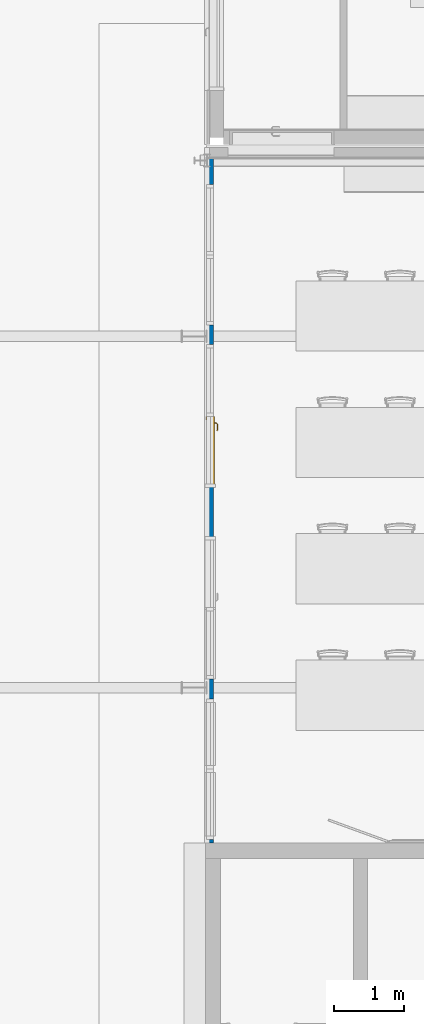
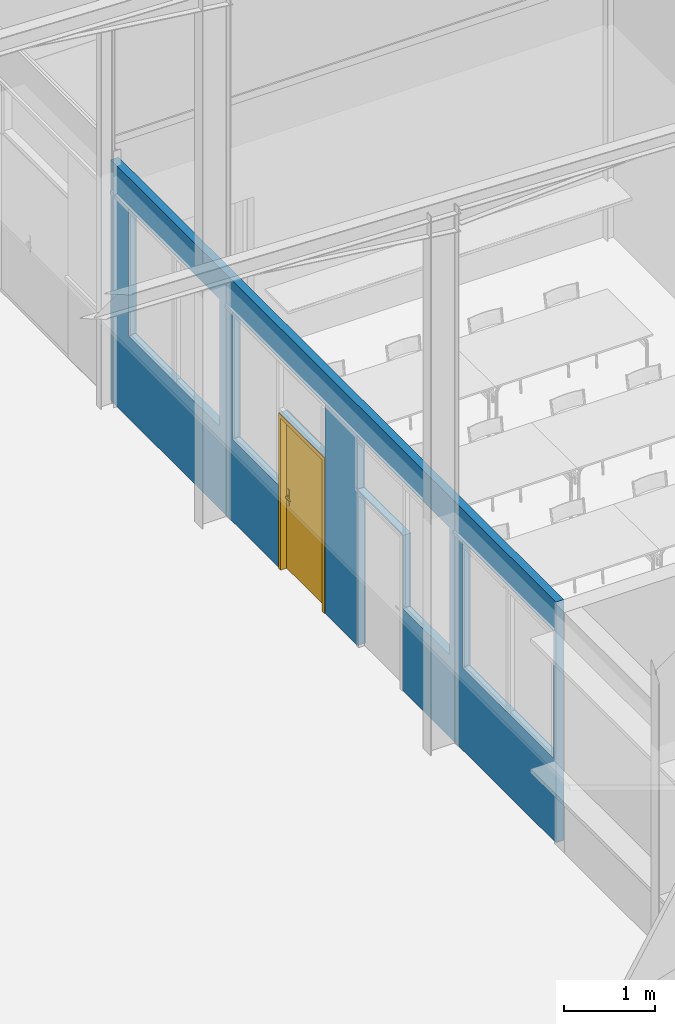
# One storey, part 53 of 137: 1 door, 1 wall, 8 openings.
"""IFC2X3 building model written with IfcOpenShell, lengths in centimetres."""

import ifcopenshell
import ifcopenshell.guid

model = None  # the IFC model being written
_history = None  # IfcOwnerHistory: only IFC2X3 demands one
_inside = {}  # id of a spatial element -> (the spatial element, [elements in it])
_under = {}  # id of a project, library or spatial element -> (it, [spatial elements below it])
_declared = {}  # id of a project -> (the project, [libraries it declares])
_typed = {}  # id of a type object -> (the type object, [elements of that type])
_made_of = {}  # id of a material, layer set ... -> (it, [elements and type objects made of it])


def new_model(schema):
    """Start an empty IFC model of exactly this schema.

    Asked for "IFC4X3", IfcOpenShell would pick the latest addendum, in which some entities
    have other attributes; the version numbers below select the first issue.
    IFC2X3 requires an IfcOwnerHistory on every rooted entity: one is made here for all.
    """
    global model, _history
    if schema == "IFC4X3":
        model = ifcopenshell.file(schema_version=(4, 3, 0, 0))
    else:
        model = ifcopenshell.file(schema=schema)
    _inside.clear()
    _under.clear()
    _declared.clear()
    _typed.clear()
    _made_of.clear()
    _history = None
    if model.schema == "IFC2X3":
        org = make("IfcOrganization", Name="unknown")
        user = make(
            "IfcPersonAndOrganization",
            ThePerson=make("IfcPerson", FamilyName="unknown"),
            TheOrganization=org,
        )
        app = make(
            "IfcApplication",
            ApplicationDeveloper=org,
            Version="unknown",
            ApplicationFullName="unknown",
            ApplicationIdentifier="unknown",
        )
        _history = make(
            "IfcOwnerHistory",
            OwningUser=user,
            OwningApplication=app,
            ChangeAction="ADDED",
            CreationDate=0,
        )
    return model


def make(cls, **values):
    """One entity of the class cls with the attributes given. An attribute that is None is left unset."""
    return model.create_entity(
        cls, **{name: value for name, value in values.items() if value is not None}
    )


def entity(cls, *values):
    """Any entity or typed value of the class cls, its attributes in the order of the schema. None: left unset."""
    e = model.create_entity(cls)
    for i, value in enumerate(values):
        if value is not None:
            e[i] = value
    return e


def rooted(cls, **values):
    """An entity with a GlobalId (a new one), such as an element, a storey or a relation."""
    return make(cls, GlobalId=ifcopenshell.guid.new(), OwnerHistory=_history, **values)


def si_unit(unit_type, name, prefix=None):
    """IfcSIUnit, for example si_unit("LENGTHUNIT", "METRE", prefix="MILLI")."""
    return make("IfcSIUnit", UnitType=unit_type, Prefix=prefix, Name=name)


def converted_unit(unit_type, name, factor, base, dimensions=None, offset=None):
    """IfcConversionBasedUnit, such as the inch: factor (a typed value) times the base unit."""
    return make(
        "IfcConversionBasedUnit"
        if offset is None
        else "IfcConversionBasedUnitWithOffset",
        ConversionOffset=offset,
        Dimensions=None
        if dimensions is None
        else entity("IfcDimensionalExponents", *dimensions),
        UnitType=unit_type,
        Name=name,
        ConversionFactor=make(
            "IfcMeasureWithUnit", ValueComponent=factor, UnitComponent=base
        ),
    )


def derived_unit(unit_type, elements):
    """IfcDerivedUnit: a product of units, each with its exponent."""
    return make(
        "IfcDerivedUnit",
        Elements=[
            make("IfcDerivedUnitElement", Unit=unit, Exponent=power)
            for unit, power in elements
        ],
        UnitType=unit_type,
    )


def assignment(units):
    """IfcUnitAssignment: the units of a project."""
    return None if units is None else make("IfcUnitAssignment", Units=units)


def point(xyz):
    """IfcCartesianPoint."""
    return None if xyz is None else make("IfcCartesianPoint", Coordinates=xyz)


def direction(xyz):
    """IfcDirection."""
    return None if xyz is None else make("IfcDirection", DirectionRatios=xyz)


def frame(location, z_axis=None, x_axis=None):
    """IfcAxis2Placement3D, a coordinate frame: its origin and axes. An axis left out is left unset."""
    return make(
        "IfcAxis2Placement3D",
        Location=point(location),
        Axis=direction(z_axis),
        RefDirection=direction(x_axis),
    )


def frame_2d(location, x_axis=None):
    """IfcAxis2Placement2D, a coordinate frame in the plane: its origin and x axis."""
    return make(
        "IfcAxis2Placement2D", Location=point(location), RefDirection=direction(x_axis)
    )


def origin():
    """The frame at (0, 0, 0) with its axes left unset."""
    return frame((0.0, 0.0, 0.0))


def origin_2d_with_axis():
    """The frame at (0, 0) in the plane with the x axis (1, 0) written out."""
    return frame_2d((0.0, 0.0), x_axis=(1.0, 0.0))


def place(relative_to, where):
    """IfcLocalPlacement: puts the frame where relative to a parent placement (None: the world)."""
    return make(
        "IfcLocalPlacement", PlacementRelTo=relative_to, RelativePlacement=where
    )


def context(
    kind, dimensions, precision=None, world=None, true_north=None, identifier=None
):
    """IfcGeometricRepresentationContext, for example the 3D "Model" context."""
    return make(
        "IfcGeometricRepresentationContext",
        ContextIdentifier=identifier,
        ContextType=kind,
        CoordinateSpaceDimension=dimensions,
        Precision=precision,
        WorldCoordinateSystem=world,
        TrueNorth=true_north,
    )


def subcontext(parent, identifier, kind, view, scale=None):
    """IfcGeometricRepresentationSubContext, for example "Body" below "Model"."""
    return make(
        "IfcGeometricRepresentationSubContext",
        ContextIdentifier=identifier,
        ContextType=kind,
        ParentContext=parent,
        TargetScale=scale,
        TargetView=view,
    )


def project(units=None, contexts=None):
    """IfcProject with its units and contexts."""
    return rooted(
        "IfcProject",
        Name="project",
        RepresentationContexts=contexts,
        UnitsInContext=assignment(units),
    )


def spatial(cls, under=None, at=None, **own):
    """A site, building, storey or space (cls), placed at a placement, below another one or the project."""
    s = rooted(cls, ObjectPlacement=at, **own)
    if under is not None:
        _under.setdefault(under.id(), (under, []))[1].append(s)
    return s


def polyline(points):
    """IfcPolyline through the points."""
    return make("IfcPolyline", Points=[point(p) for p in points])


def profile(cls, at=None, kind="AREA", **sizes):
    """A parametric profile (cls). Its sizes go by their IFC names, for example OverallWidth=200.0."""
    return make(cls, ProfileType=kind, Position=at, **sizes)


def rectangle(**sizes):
    """IfcRectangleProfileDef."""
    return profile("IfcRectangleProfileDef", **sizes)


def outline(outer, holes=None, kind="AREA"):
    """IfcArbitraryClosedProfileDef: a profile drawn as a closed curve; with holes, ...WithVoids."""
    if holes is None:
        return make("IfcArbitraryClosedProfileDef", ProfileType=kind, OuterCurve=outer)
    return make(
        "IfcArbitraryProfileDefWithVoids",
        ProfileType=kind,
        OuterCurve=outer,
        InnerCurves=holes,
    )


def extrude(swept, where, along, depth):
    """IfcExtrudedAreaSolid: the profile swept, set in the frame where, extruded along a direction by depth."""
    return make(
        "IfcExtrudedAreaSolid",
        SweptArea=swept,
        Position=where,
        ExtrudedDirection=direction(along),
        Depth=depth,
    )


def clip(a, b, op="DIFFERENCE"):
    """IfcBooleanClippingResult: the solid a cut by the half space b."""
    return make(
        "IfcBooleanClippingResult", Operator=op, FirstOperand=a, SecondOperand=b
    )


def bounded_halfspace(plane, agree, where, boundary):
    """IfcPolygonalBoundedHalfSpace: a half space limited to a polygon's prism."""
    return make(
        "IfcPolygonalBoundedHalfSpace",
        BaseSurface=make("IfcPlane", Position=plane),
        AgreementFlag=agree,
        Position=where,
        PolygonalBoundary=boundary,
    )


def faces_of(points, faces, orient=None, outer=None):
    """IfcFace entities. A face is a list of loops; a loop is a list of indices into points, from 0.

    orient and outer hold one flag for each loop. By default every Orientation is true, the
    first loop of a face is its IfcFaceOuterBound and the others are IfcFaceBound.
    """
    made = []
    for i, loops in enumerate(faces):
        bounds = []
        for j, loop in enumerate(loops):
            is_outer = j == 0 if outer is None else outer[i][j]
            bounds.append(
                make(
                    "IfcFaceOuterBound" if is_outer else "IfcFaceBound",
                    Bound=make("IfcPolyLoop", Polygon=[points[k] for k in loop]),
                    Orientation=True if orient is None else orient[i][j],
                )
            )
        made.append(make("IfcFace", Bounds=bounds))
    return made


def faceted_brep(points, faces, orient=None, outer=None, voids=None):
    """IfcFacetedBrep: a solid bounded by flat faces; with voids (closed shells), ...WithVoids."""
    shared = [point(p) for p in points]
    hull = make("IfcClosedShell", CfsFaces=faces_of(shared, faces, orient, outer))
    if voids is None:
        return make("IfcFacetedBrep", Outer=hull)
    return make(
        "IfcFacetedBrepWithVoids",
        Outer=hull,
        Voids=[
            make(cls, CfsFaces=faces_of(shared, fs, o, b)) for cls, fs, o, b in voids
        ],
    )


def shape(context_of_items, identifier, shape_type, items):
    """IfcShapeRepresentation: the items that make up one representation, for example the "Body"."""
    return make(
        "IfcShapeRepresentation",
        ContextOfItems=context_of_items,
        RepresentationIdentifier=identifier,
        RepresentationType=shape_type,
        Items=items,
    )


def source(mapping_origin, context_of_items, identifier, shape_type, items):
    """IfcRepresentationMap: a shape defined once, which mapped items show again and again."""
    return make(
        "IfcRepresentationMap",
        MappingOrigin=mapping_origin,
        MappedRepresentation=shape(context_of_items, identifier, shape_type, items),
    )


def transform(
    local_origin,
    x_axis=None,
    y_axis=None,
    z_axis=None,
    scale=None,
    scale2=None,
    scale3=None,
    uniform=True,
):
    """IfcCartesianTransformationOperator3D, or its non-uniform kind. x_axis, y_axis, z_axis: its Axis1, 2, 3."""
    if uniform:
        return make(
            "IfcCartesianTransformationOperator3D",
            Axis1=direction(x_axis),
            Axis2=direction(y_axis),
            LocalOrigin=point(local_origin),
            Scale=scale,
            Axis3=direction(z_axis),
        )
    return make(
        "IfcCartesianTransformationOperator3DnonUniform",
        Axis1=direction(x_axis),
        Axis2=direction(y_axis),
        LocalOrigin=point(local_origin),
        Scale=scale,
        Axis3=direction(z_axis),
        Scale2=scale2,
        Scale3=scale3,
    )


def mapped(mapping_source, mapping_target):
    """IfcMappedItem: shows the shape of a source again, moved by a transform."""
    return make(
        "IfcMappedItem", MappingSource=mapping_source, MappingTarget=mapping_target
    )


def material(Name=None, Category=None):
    """IfcMaterial."""
    return make("IfcMaterial", Name=Name, Category=Category)


def material_list(materials):
    """IfcMaterialList."""
    return make("IfcMaterialList", Materials=materials)


def layer(
    of_material, thickness, ventilated=None, Name=None, Category=None, Priority=None
):
    """IfcMaterialLayer: one layer of a wall or slab, of a material (None: an air gap)."""
    return make(
        "IfcMaterialLayer",
        Material=of_material,
        LayerThickness=thickness,
        IsVentilated=ventilated,
        Name=Name,
        Category=Category,
        Priority=Priority,
    )


def layer_set(layers, Name=None):
    """IfcMaterialLayerSet."""
    return make("IfcMaterialLayerSet", MaterialLayers=layers, LayerSetName=Name)


def layer_usage(for_layer_set, set_direction, sense, offset, extent=None):
    """IfcMaterialLayerSetUsage: how a layer set lies in its element."""
    return make(
        "IfcMaterialLayerSetUsage",
        ForLayerSet=for_layer_set,
        LayerSetDirection=set_direction,
        DirectionSense=sense,
        OffsetFromReferenceLine=offset,
        ReferenceExtent=extent,
    )


def made_of(thing, what):
    """Note that an element or type object is made of a material, layer set ...; save() writes the relation."""
    if what is not None:
        _made_of.setdefault(what.id(), (what, []))[1].append(thing)
    return thing


def type_object(cls, material=None, **own):
    """A type object (cls), such as IfcWallType, which elements share."""
    return made_of(rooted(cls, **own), material)


def type_shapes(of_type, sources):
    """Give a type object the sources (RepresentationMaps) that its elements show as mapped items."""
    of_type.RepresentationMaps = sources


def element(
    cls,
    number,
    at=None,
    inside=None,
    cuts=None,
    type_object=None,
    material=None,
    context=None,
    identifier="Body",
    shape_type=None,
    held_by="IfcProductDefinitionShape",
    body=None,
    shapes=None,
    **own,
):
    """One element of the class cls, such as IfcWall. Its Tag is "e" and its number.

    at: its placement. inside: the storey or other place that contains it. cuts: it is an
    opening in that element (IfcRelVoidsElement). A single representation is given by context,
    identifier, shape_type and body (its items); several are given by shapes. held_by: the class
    of the entity that holds the representations. save() writes the other relations.
    """
    e = rooted(cls, Tag="e%d" % number, ObjectPlacement=at, **own)
    if body is not None:
        shapes = [shape(context, identifier, shape_type, body)]
    if shapes is not None:
        e.Representation = make(held_by, Representations=shapes)
    if inside is not None:
        _inside.setdefault(inside.id(), (inside, []))[1].append(e)
    if cuts is not None:
        rooted(
            "IfcRelVoidsElement", RelatingBuildingElement=cuts, RelatedOpeningElement=e
        )
    if type_object is not None:
        _typed.setdefault(type_object.id(), (type_object, []))[1].append(e)
    return made_of(e, material)


def fill(opening, filler):
    """IfcRelFillsElement: the door or window that sits in an opening."""
    return rooted(
        "IfcRelFillsElement",
        RelatingOpeningElement=opening,
        RelatedBuildingElement=filler,
    )


def aggregate(whole, parts):
    """IfcRelAggregates: a whole, such as a stair, and the parts it consists of."""
    return rooted("IfcRelAggregates", RelatingObject=whole, RelatedObjects=parts)


def save(model, path):
    """Write the relations noted so far, then the file.

    IfcRelAggregates (storeys below a building ...), IfcRelContainedInSpatialStructure (elements
    in a storey), IfcRelDefinesByType, IfcRelAssociatesMaterial and IfcRelDeclares: one each for
    every whole, place, type object, material and project.
    """
    for whole, parts in _under.values():
        aggregate(whole, parts)
    for where, things in _inside.values():
        rooted(
            "IfcRelContainedInSpatialStructure",
            RelatedElements=things,
            RelatingStructure=where,
        )
    for kind, things in _typed.values():
        rooted("IfcRelDefinesByType", RelatedObjects=things, RelatingType=kind)
    for what, things in _made_of.values():
        rooted("IfcRelAssociatesMaterial", RelatedObjects=things, RelatingMaterial=what)
    for by, libraries in _declared.values():
        rooted("IfcRelDeclares", RelatingContext=by, RelatedDefinitions=libraries)
    model.write(path)


model = new_model("IFC2X3")

# Units and contexts
model_context = context("Model", 3, precision=0.001, world=origin(), true_north=direction((6.12303176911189e-17, 1.0)))
body_context = subcontext(model_context, "Body", "Model", "MODEL_VIEW")
ifc_project = project(units=[si_unit("LENGTHUNIT", "METRE", prefix="CENTI"), si_unit("AREAUNIT", "SQUARE_METRE"), si_unit("VOLUMEUNIT", "CUBIC_METRE"), converted_unit("PLANEANGLEUNIT", "DEGREE", entity("IfcRatioMeasure", 0.0174532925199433), si_unit("PLANEANGLEUNIT", "RADIAN"), dimensions=[0, 0, 0, 0, 0, 0, 0]), si_unit("MASSUNIT", "GRAM", prefix="KILO"), si_unit("TIMEUNIT", "SECOND"), si_unit("FREQUENCYUNIT", "HERTZ"), si_unit("THERMODYNAMICTEMPERATUREUNIT", "DEGREE_CELSIUS"), derived_unit("THERMALTRANSMITTANCEUNIT", [(si_unit("MASSUNIT", "GRAM", prefix="KILO"), 1), (si_unit("THERMODYNAMICTEMPERATUREUNIT", "KELVIN"), -1), (si_unit("TIMEUNIT", "SECOND"), -3)]), derived_unit("VOLUMETRICFLOWRATEUNIT", [(si_unit("LENGTHUNIT", "METRE"), 3), (si_unit("TIMEUNIT", "SECOND"), -1)]), si_unit("ELECTRICCURRENTUNIT", "AMPERE"), si_unit("ELECTRICVOLTAGEUNIT", "VOLT"), si_unit("POWERUNIT", "WATT"), si_unit("FORCEUNIT", "NEWTON", prefix="KILO"), si_unit("ILLUMINANCEUNIT", "LUX"), si_unit("LUMINOUSFLUXUNIT", "LUMEN"), si_unit("LUMINOUSINTENSITYUNIT", "CANDELA"), derived_unit("USERDEFINED", [(si_unit("MASSUNIT", "GRAM", prefix="KILO"), -1), (si_unit("LENGTHUNIT", "METRE"), -2), (si_unit("TIMEUNIT", "SECOND"), 3), (si_unit("LUMINOUSFLUXUNIT", "LUMEN"), 1)]), derived_unit("LINEARVELOCITYUNIT", [(si_unit("LENGTHUNIT", "METRE"), 1), (si_unit("TIMEUNIT", "SECOND"), -1)]), si_unit("PRESSUREUNIT", "PASCAL"), derived_unit("USERDEFINED", [(si_unit("LENGTHUNIT", "METRE"), -2), (si_unit("MASSUNIT", "GRAM", prefix="KILO"), 1), (si_unit("TIMEUNIT", "SECOND"), -2)])], contexts=[model_context])

# Site, building, storey
site_placement = place(None, frame((8.62739174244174, -249.285249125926, 0.0)))
site = spatial("IfcSite", under=ifc_project, at=site_placement, Name="Default", CompositionType="ELEMENT")
building_placement = place(site_placement, origin())
building = spatial("IfcBuilding", under=site, at=building_placement, CompositionType="ELEMENT")
storey_placement = place(building_placement, origin())
storey = spatial("IfcBuildingStorey", under=building, at=storey_placement, Name="RDC", CompositionType="ELEMENT", Elevation=-8.82465566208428e-11)

# Wall, openings, door
ifc_material_1 = material(Name="Plâtre EXISTANT")
ifc_layer = layer(ifc_material_1, 10.0)
ifc_layer_set = layer_set([ifc_layer], Name="Mur de base:PLA EXISTANT 10")
ifc_layer_usage = layer_usage(ifc_layer_set, "AXIS2", "NEGATIVE", 5.0)
wall_type = type_object("IfcWallType", Name="Mur de base:PLA EXISTANT 10", PredefinedType="STANDARD", material=ifc_layer_set)
wall_placement = place(storey_placement, frame((3034.90482780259, 2616.98020806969, 0.0), z_axis=(0.0, 0.0, 1.0), x_axis=(0.0, -1.0, 0.0)))
wall = element("IfcWallStandardCase", 1, at=wall_placement, inside=storey, type_object=wall_type, material=ifc_layer_usage, Name="Mur de base:PLA EXISTANT 10", ObjectType="Mur de base:PLA EXISTANT 10", context=body_context, shape_type="Clipping", body=[
    clip(extrude(rectangle(XDim=975.999999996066, YDim=10.0000000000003, at=frame_2d((487.999999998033, 3.10862446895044e-15), x_axis=(-1.0, 0.0))), origin(), (0.0, 0.0, 1.0), 322.000000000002), bounded_halfspace(frame((0.0, -5.0, 322.0), z_axis=(0.0, 0.0, -1.0), x_axis=(0.0, -1.0, 0.0)), True, frame((0.0, -5.0, 322.0)), polyline([(0.0, 0.0), (976.0, 0.0), (976.0, 10.0), (0.0, 10.0), (0.0, 0.0)]))),
])
opening_1_placement = place(wall_placement, origin())
element("IfcOpeningElement", 2, at=opening_1_placement, cuts=wall, Name="Mur de base:PLA EXISTANT 10", ObjectType="Opening", context=body_context, shape_type="SweptSolid", body=[
    extrude(rectangle(XDim=170.0, YDim=100.0, at=frame_2d((0.0, -1.10134124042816e-13), x_axis=(1.0, 0.0))), frame((821.0, -20.2399999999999, 195.0), z_axis=(0.0, 1.0, 0.0), x_axis=(0.0, 0.0, 1.0)), (0.0, 0.0, 1.0), 40.4799999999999),
])
opening_2_placement = place(wall_placement, origin())
element("IfcOpeningElement", 3, at=opening_2_placement, cuts=wall, Name="Mur de base:PLA EXISTANT 10", ObjectType="Opening", context=body_context, shape_type="SweptSolid", body=[
    extrude(rectangle(XDim=170.0, YDim=100.0, at=frame_2d((0.0, -1.10134124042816e-13), x_axis=(1.0, 0.0))), frame((921.0, -20.2399999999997, 195.0), z_axis=(0.0, 1.0, 0.0), x_axis=(0.0, 0.0, 1.0)), (0.0, 0.0, 1.0), 40.4799999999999),
])
opening_3_placement = place(wall_placement, origin())
element("IfcOpeningElement", 4, at=opening_3_placement, cuts=wall, Name="Mur de base:PLA EXISTANT 10", ObjectType="Opening", context=body_context, shape_type="SweptSolid", body=[
    extrude(outline(polyline([(-89.3333333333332, -101.666666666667), (80.6666666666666, -101.666666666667), (80.6666666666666, 101.333333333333), (8.66666666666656, 101.333333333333), (8.66666666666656, 0.333333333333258), (-89.3333333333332, 0.333333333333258), (-89.3333333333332, -101.666666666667)])), frame((368.666666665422, -20.2399999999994, 199.333333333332), z_axis=(0.0, 1.0, 0.0), x_axis=(0.0, 0.0, 1.0)), (0.0, 0.0, 1.0), 40.4799999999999),
])
opening_4_placement = place(wall_placement, origin())
element("IfcOpeningElement", 5, at=opening_4_placement, cuts=wall, Name="Mur de base:PLA EXISTANT 10", ObjectType="Opening", context=body_context, shape_type="SweptSolid", body=[
    extrude(outline(polyline([(-101.666666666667, -89.3333333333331), (0.333333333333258, -89.3333333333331), (0.333333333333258, 8.66666666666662), (101.333333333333, 8.66666666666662), (101.333333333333, 80.6666666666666), (-101.666666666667, 80.6666666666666), (-101.666666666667, -89.3333333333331)])), frame((641.333333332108, -20.2399999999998, 199.333333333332), z_axis=(0.0, 1.0, 0.0), x_axis=(-1.0, 0.0, 0.0)), (0.0, 0.0, 1.0), 40.4799999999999),
])
opening_5_placement = place(wall_placement, origin())
element("IfcOpeningElement", 6, at=opening_5_placement, cuts=wall, Name="Mur de base:PLA EXISTANT 10", ObjectType="Opening", context=body_context, shape_type="SweptSolid", body=[
    extrude(rectangle(XDim=170.0, YDim=99.9999999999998, at=origin_2d_with_axis()), frame((189.0, -20.2399999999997, 195.0), z_axis=(0.0, 1.0, 0.0), x_axis=(0.0, 0.0, 1.0)), (0.0, 0.0, 1.0), 40.4799999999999),
])
opening_6_placement = place(wall_placement, origin())
element("IfcOpeningElement", 7, at=opening_6_placement, cuts=wall, Name="Mur de base:PLA EXISTANT 10", ObjectType="Opening", context=body_context, shape_type="SweptSolid", body=[
    extrude(rectangle(XDim=170.0, YDim=99.9999999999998, at=origin_2d_with_axis()), frame((89.0, -20.2399999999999, 195.0), z_axis=(0.0, 1.0, 0.0), x_axis=(0.0, 0.0, 1.0)), (0.0, 0.0, 1.0), 40.4799999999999),
])
opening_7_placement = place(wall_placement, frame((370.0, -5.0, 0.0)))
opening_7 = element("IfcOpeningElement", 8, at=opening_7_placement, cuts=wall, Name="Simple(R)_bois_Existant_mu:93 x 204 cm:1", ObjectType="Opening", context=body_context, shape_type="SweptSolid", body=[
    extrude(rectangle(XDim=206.999999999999, YDim=98.9999999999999, at=frame_2d((103.499999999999, 49.4999999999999), x_axis=(1.0, 0.0))), frame((0.0, 0.0, 0.0), z_axis=(0.0, 1.0, 0.0), x_axis=(0.0, 0.0, 1.0)), (0.0, 0.0, 1.0), 10.0),
])
opening_8_placement = place(wall_placement, frame((541.0, -5.0, 0.0)))
element("IfcOpeningElement", 9, at=opening_8_placement, cuts=wall, Name="Simple(R)_bois_Existant_mu:93 x 204 cm:1", ObjectType="Opening", context=body_context, shape_type="SweptSolid", body=[
    extrude(rectangle(XDim=206.999999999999, YDim=98.9999999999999, at=frame_2d((103.499999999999, 49.5000000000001), x_axis=(1.0, 0.0))), frame((0.0, 0.0, 0.0), z_axis=(0.0, 1.0, 0.0), x_axis=(0.0, 0.0, 1.0)), (0.0, 0.0, 1.0), 10.0),
])
ifc_material_2 = material(Name="Porte - Poignée")
ifc_material_3 = material(Name="Porte - Cadre")
ifc_material_4 = material(Name="Porte - Panneau")
ifc_material_list_1 = material_list([ifc_material_2, ifc_material_3, ifc_material_4])
ifc_material_list_2 = material_list([ifc_material_2, ifc_material_3, ifc_material_4])
door_style = type_object("IfcDoorStyle", Name="93 x 204 cm", ConstructionType="NOTDEFINED", OperationType="SINGLE_SWING_LEFT", ParameterTakesPrecedence=False, Sizeable=False, material=ifc_material_list_2)
shared_shape = source(origin(), body_context, "Body", "Brep", [
    faceted_brep([(91.7025298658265, 3.69999999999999, 100.778044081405), (91.2974701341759, 3.69999999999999, 100.778044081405), (90.8999999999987, 3.69999999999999, 100.699999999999), (90.9000000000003, 3.69999999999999, 99.3000000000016), (91.2974701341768, 3.69999999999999, 99.2219559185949), (91.7025298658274, 3.69999999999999, 99.2219559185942), (92.1000000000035, 3.69999999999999, 99.2999999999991), (92.1000000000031, 3.69999999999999, 100.699999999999), (90.8999999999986, 5.94852045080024, 100.699999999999), (90.8999999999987, 5.94852045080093, 99.3000000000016), (91.2974701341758, 6.1131579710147, 100.778044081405), (91.7025298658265, 6.2809392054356, 100.778044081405), (90.0838906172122, 7.89957845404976, 100.778044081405), (89.9161093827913, 7.49451872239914, 100.778044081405), (81.5793122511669, 7.49451872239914, 100.778044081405), (81.411531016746, 7.89957845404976, 100.778044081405), (80.6451046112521, 7.13315204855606, 100.778044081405), (80.9315250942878, 6.84673156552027, 100.778044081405), (92.1000000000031, 6.44557672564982, 100.699999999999), (92.1000000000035, 6.44557672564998, 99.2999999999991), (91.7025298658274, 6.28093920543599, 99.2219559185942), (91.2974701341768, 6.11315797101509, 99.2219559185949), (89.9161093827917, 7.49451872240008, 99.2219559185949), (90.0838906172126, 7.8995784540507, 99.2219559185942), (81.4115310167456, 7.8995784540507, 99.2219559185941), (81.5793122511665, 7.49451872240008, 99.2219559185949), (80.9315250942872, 6.84673156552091, 99.2219559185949), (80.6451046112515, 7.1331520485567, 99.2219559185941), (89.7514718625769, 7.09704858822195, 100.699999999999), (89.7514718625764, 7.09704858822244, 99.3000000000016), (90.2485281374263, 8.29704858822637, 100.699999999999), (90.2485281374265, 8.29704858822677, 99.2999999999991), (85.7477108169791, 7.09704858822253, 100.699999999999), (81.7439497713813, 7.09704858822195, 100.699999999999), (81.7439497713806, 7.09704858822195, 99.3000000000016), (85.7477108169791, 7.09704858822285, 99.3000000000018), (85.7477108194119, 7.71249275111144, 100.787811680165), (85.2399422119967, 8.29704858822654, 100.699999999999), (81.2468934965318, 8.29704858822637, 100.699999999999), (86.2554791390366, 8.29704858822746, 99.2999999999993), (81.2468934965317, 8.29704858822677, 99.2999999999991), (85.7477107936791, 7.71249274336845, 99.2121883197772), (80.3640507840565, 7.41420587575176, 100.699999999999), (80.364050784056, 7.41420587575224, 99.2999999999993), (81.2125789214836, 6.56567773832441, 99.3000000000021), (81.2125789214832, 6.56567773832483, 100.699999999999)], [[[0, 1, 2, 3, 4, 5, 6, 7]], [[8, 9, 3, 2]], [[1, 10, 8, 2]], [[1, 0, 11, 12, 13, 10]], [[14, 15, 16, 17]], [[7, 18, 11, 0]], [[18, 7, 6, 19]], [[6, 5, 20, 19]], [[5, 4, 21, 22, 23, 20]], [[24, 25, 26, 27]], [[4, 3, 9, 21]], [[28, 29, 9, 8]], [[8, 10, 13, 28]], [[18, 30, 12, 11]], [[31, 30, 18, 19]], [[19, 20, 23, 31]], [[21, 9, 29, 22]], [[29, 28, 32, 33, 34, 35]], [[36, 32, 13]], [[37, 38, 15]], [[37, 12, 30]], [[36, 12, 37]], [[14, 32, 36]], [[36, 15, 14]], [[28, 13, 32]], [[32, 14, 33]], [[12, 36, 13]], [[15, 36, 37]], [[30, 31, 39, 40, 38, 37]], [[23, 41, 39]], [[24, 39, 41]], [[39, 31, 23]], [[39, 24, 40]], [[22, 35, 41]], [[41, 23, 22]], [[41, 35, 25]], [[35, 22, 29]], [[34, 25, 35]], [[24, 41, 25]], [[17, 16, 42, 43, 27, 26, 44, 45]], [[45, 44, 34, 33]], [[33, 14, 17, 45]], [[15, 38, 42, 16]], [[43, 42, 38, 40]], [[24, 27, 43, 40]], [[34, 44, 26, 25]]]),
    faceted_brep([(91.2974701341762, -1.30000000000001, 100.778044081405), (91.7025298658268, -1.30000000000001, 100.778044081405), (92.1000000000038, -1.30000000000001, 100.699999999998), (92.1000000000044, -1.30000000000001, 99.2999999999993), (91.7025298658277, -1.30000000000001, 99.2219559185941), (91.297470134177, -1.30000000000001, 99.2219559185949), (90.899999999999, -1.30000000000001, 99.3000000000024), (90.8999999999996, -1.30000000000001, 100.699999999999), (91.7025298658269, -3.90045754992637, 100.778044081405), (92.100000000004, -4.06509507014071, 100.699999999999), (91.2974701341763, -3.73267631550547, 100.778044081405), (89.9298602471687, -5.10028620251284, 100.778044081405), (90.0976414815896, -5.50534593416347, 100.778044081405), (81.4142453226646, -5.50534593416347, 100.778044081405), (81.5820265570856, -5.10028620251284, 100.778044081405), (80.9342394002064, -4.4524990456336, 100.778044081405), (80.6478189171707, -4.73891952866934, 100.778044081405), (90.8999999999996, -3.56803879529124, 100.699999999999), (90.899999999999, -3.56803879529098, 99.3000000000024), (91.297470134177, -3.7326763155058, 99.2219559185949), (91.7025298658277, -3.9004575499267, 99.2219559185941), (90.09764148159, -5.50534593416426, 99.2219559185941), (89.9298602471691, -5.10028620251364, 99.2219559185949), (81.5820265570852, -5.10028620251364, 99.2219559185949), (81.4142453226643, -5.50534593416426, 99.2219559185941), (80.6478189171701, -4.73891952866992, 99.2219559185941), (80.9342394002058, -4.45249904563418, 99.2219559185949), (92.1000000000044, -4.06509507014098, 99.2999999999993), (90.2622790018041, -5.90281606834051, 100.699999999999), (89.7652227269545, -4.70281606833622, 100.699999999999), (89.7652227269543, -4.70281606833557, 99.3000000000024), (90.2622790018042, -5.90281606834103, 99.2999999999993), (85.7559433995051, -5.31828027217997, 100.787811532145), (86.2692302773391, -5.90281606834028, 100.699999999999), (81.2496078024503, -5.90281606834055, 100.699999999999), (85.755943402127, -4.70281606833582, 100.699999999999), (81.7466640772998, -4.70281606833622, 100.699999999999), (85.7559436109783, -4.70281606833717, 99.3000000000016), (81.7466640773, -4.70281606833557, 99.3000000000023), (85.7559434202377, -5.31828027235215, 99.2121884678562), (85.2426572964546, -5.90281606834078, 99.2999999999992), (81.24960780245, -5.90281606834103, 99.2999999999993), (81.2152932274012, -4.17144521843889, 99.3000000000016), (80.366765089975, -5.01997335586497, 99.2999999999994), (80.3667650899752, -5.01997335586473, 100.699999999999), (81.2152932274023, -4.17144521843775, 100.699999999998)], [[[0, 1, 2, 3, 4, 5, 6, 7]], [[2, 1, 8, 9]], [[1, 0, 10, 11, 12, 8]], [[13, 14, 15, 16]], [[0, 7, 17, 10]], [[18, 17, 7, 6]], [[5, 19, 18, 6]], [[5, 4, 20, 21, 22, 19]], [[23, 24, 25, 26]], [[3, 27, 20, 4]], [[9, 27, 3, 2]], [[9, 8, 12, 28]], [[10, 17, 29, 11]], [[30, 29, 17, 18]], [[18, 19, 22, 30]], [[20, 27, 31, 21]], [[28, 31, 27, 9]], [[12, 32, 33]], [[13, 33, 32]], [[33, 28, 12]], [[33, 13, 34]], [[11, 35, 32]], [[32, 12, 11]], [[32, 35, 14]], [[35, 11, 29]], [[36, 14, 35]], [[13, 32, 14]], [[29, 30, 37, 38, 36, 35]], [[39, 37, 22]], [[40, 41, 24]], [[40, 21, 31]], [[39, 21, 40]], [[23, 37, 39]], [[39, 24, 23]], [[30, 22, 37]], [[37, 23, 38]], [[21, 39, 22]], [[24, 39, 40]], [[31, 28, 33, 34, 41, 40]], [[42, 26, 25, 43, 44, 16, 15, 45]], [[13, 16, 44, 34]], [[36, 45, 15, 14]], [[42, 45, 36, 38]], [[38, 23, 26, 42]], [[24, 41, 43, 25]], [[44, 43, 41, 34]]]),
    faceted_brep([(91.5000000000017, 3.19999999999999, 86.4641016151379), (92.5352761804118, 3.19999999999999, 86.6003983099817), (93.5000000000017, 3.19999999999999, 87.0), (93.5000000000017, 3.19999999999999, 108.0), (92.5352761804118, 3.19999999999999, 108.399601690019), (91.5000000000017, 3.19999999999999, 108.535898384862), (90.4647238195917, 3.19999999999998, 108.399601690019), (89.5000000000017, 3.19999999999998, 108.0), (89.5000000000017, 3.19999999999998, 87.0), (90.4647238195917, 3.19999999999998, 86.6003983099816), (91.5000000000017, 3.69999999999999, 108.535898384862), (92.5352761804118, 3.69999999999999, 108.399601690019), (93.5000000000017, 3.69999999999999, 108.0), (93.5000000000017, 3.69999999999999, 87.0), (92.5352761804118, 3.69999999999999, 86.6003983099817), (91.5000000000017, 3.69999999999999, 86.4641016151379), (90.4647238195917, 3.69999999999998, 86.6003983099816), (89.5000000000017, 3.69999999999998, 87.0), (89.5000000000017, 3.69999999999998, 108.0), (90.4647238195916, 3.69999999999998, 108.399601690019)], [[[0, 1, 2, 3, 4, 5, 6, 7, 8, 9]], [[10, 11, 12, 13, 14, 15, 16, 17, 18, 19]], [[6, 19, 18, 7]], [[5, 10, 19, 6]], [[4, 11, 10, 5]], [[4, 3, 12, 11]], [[12, 3, 2, 13]], [[1, 14, 13, 2]], [[0, 15, 14, 1]], [[9, 16, 15, 0]], [[9, 8, 17, 16]], [[17, 8, 7, 18]]]),
    faceted_brep([(91.5000000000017, -1.30000000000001, 86.4641016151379), (92.5352761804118, -1.30000000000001, 86.6003983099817), (93.5000000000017, -1.3, 87.0), (93.5000000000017, -1.3, 108.0), (92.5352761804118, -1.30000000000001, 108.399601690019), (91.5000000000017, -1.30000000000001, 108.535898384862), (90.4647238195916, -1.30000000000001, 108.399601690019), (89.5000000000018, -1.30000000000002, 108.0), (89.5000000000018, -1.30000000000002, 87.0), (90.4647238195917, -1.30000000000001, 86.6003983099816), (93.5000000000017, -0.800000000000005, 108.0), (93.5000000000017, -0.800000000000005, 87.0), (92.5352761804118, -0.800000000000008, 86.6003983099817), (91.5000000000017, -0.800000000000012, 86.4641016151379), (90.4647238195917, -0.800000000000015, 86.6003983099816), (89.5000000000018, -0.800000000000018, 87.0), (89.5000000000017, -0.800000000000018, 108.0), (90.4647238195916, -0.800000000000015, 108.399601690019), (91.5000000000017, -0.800000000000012, 108.535898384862), (92.5352761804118, -0.800000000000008, 108.399601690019)], [[[0, 1, 2, 3, 4, 5, 6, 7, 8, 9]], [[10, 11, 12, 13, 14, 15, 16, 17, 18, 19]], [[1, 12, 11, 2]], [[0, 13, 12, 1]], [[9, 14, 13, 0]], [[9, 8, 15, 14]], [[15, 8, 7, 16]], [[6, 17, 16, 7]], [[5, 18, 17, 6]], [[4, 19, 18, 5]], [[4, 3, 10, 19]], [[10, 3, 2, 11]]]),
    faceted_brep([(100.0, 0.0, 0.0), (101.0, 0.0, 0.0), (101.0, -0.799999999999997, 0.0), (97.0, -0.799999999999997, 0.0), (97.0, 3.2, 0.0), (96.0, 3.2, 0.0), (96.0, 10.8000000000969, 0.0), (101.0, 10.8000000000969, 0.0), (101.0, 10.0, 0.0), (100.0, 10.0, 0.0), (100.0, 10.0, 207.0), (100.0, 0.0, 207.0), (101.0, 10.0, 208.0), (0.0, 10.0, 208.0), (0.0, 10.0, 0.0), (1.0, 10.0, 0.0), (1.0, 10.0, 207.0), (101.0, 10.8000000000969, 208.0), (96.0, 10.8000000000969, 203.0), (5.0, 10.8000000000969, 203.0), (5.0, 10.8000000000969, 0.0), (0.0, 10.8000000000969, 0.0), (0.0, 10.8000000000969, 208.0), (96.0, 3.2, 203.0), (97.0, 3.2, 204.0), (4.0, 3.2, 204.0), (4.0, 3.2, 0.0), (5.0, 3.2, 0.0), (5.0, 3.2, 203.0), (97.0, -0.799999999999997, 204.0), (101.0, -0.799999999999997, 208.0), (0.0, -0.799999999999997, 208.0), (0.0, -0.799999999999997, 0.0), (4.0, -0.799999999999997, 0.0), (4.0, -0.799999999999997, 204.0), (101.0, 0.0, 208.0), (1.0, 0.0, 207.0), (1.0, 0.0, 0.0), (0.0, 0.0, 0.0), (0.0, 0.0, 208.0)], [[[0, 1, 2, 3, 4, 5, 6, 7, 8, 9]], [[9, 10, 11, 0]], [[8, 12, 13, 14, 15, 16, 10, 9]], [[7, 17, 12, 8]], [[6, 18, 19, 20, 21, 22, 17, 7]], [[5, 23, 18, 6]], [[4, 24, 25, 26, 27, 28, 23, 5]], [[3, 29, 24, 4]], [[2, 30, 31, 32, 33, 34, 29, 3]], [[1, 35, 30, 2]], [[0, 11, 36, 37, 38, 39, 35, 1]], [[16, 15, 37, 36]], [[37, 15, 14, 21, 20, 27, 26, 33, 32, 38]], [[22, 21, 14, 13]], [[28, 27, 20, 19]], [[34, 33, 26, 25]], [[39, 38, 32, 31]], [[10, 16, 36, 11]], [[17, 22, 13, 12]], [[23, 28, 19, 18]], [[29, 34, 25, 24]], [[35, 39, 31, 30]]]),
    faceted_brep([(97.0, -0.799999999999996, 204.0), (4.0, -0.799999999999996, 204.0), (4.0, -0.799999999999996, 0.0), (97.0, -0.799999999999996, 0.0), (97.0, 3.2, 204.0), (97.0, 3.2, 0.0), (4.0, 3.2, 0.0), (4.0, 3.2, 204.0)], [[[0, 1, 2, 3]], [[4, 5, 6, 7]], [[3, 5, 4, 0]], [[2, 6, 5, 3]], [[1, 7, 6, 2]], [[0, 4, 7, 1]]]),
])
type_shapes(door_style, [shared_shape])
door_placement = place(opening_7_placement, frame((100.0, 10.0, 0.0), z_axis=(0.0, 0.0, 1.0), x_axis=(-1.0, 0.0, 0.0)))
door = element("IfcDoor", 10, at=door_placement, inside=storey, type_object=door_style, material=ifc_material_list_1, Name="Simple(R)_bois_Existant_mu:93 x 204 cm", ObjectType="93 x 204 cm", OverallHeight=206.999999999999, OverallWidth=99.0, context=body_context, shape_type="MappedRepresentation", body=[
    mapped(shared_shape, transform((0.0, 0.0, 0.0), scale=1.0)),
])
fill(opening_7, door)

save(model, "model.ifc")
